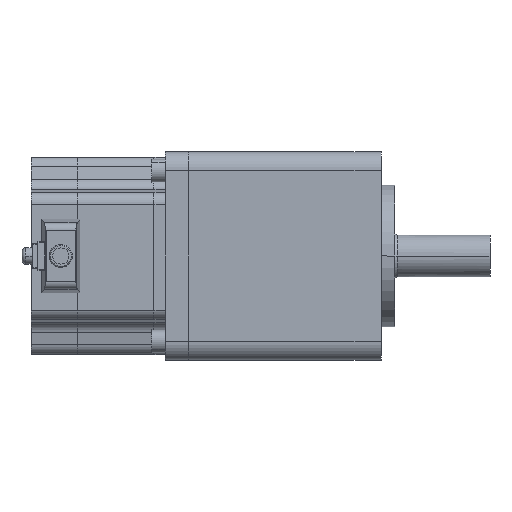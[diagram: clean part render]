
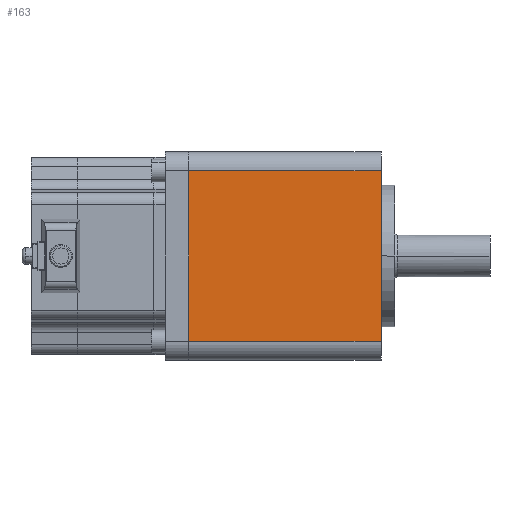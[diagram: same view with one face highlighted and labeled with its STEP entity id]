
A CAD part, front view. The second image highlights one B-rep face of the part: STEP entity #163.
In plain terms, the highlighted planar face has unit normal (0, -1, 0).
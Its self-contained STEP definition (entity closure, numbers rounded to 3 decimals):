
#163 = ADVANCED_FACE( '', ( #449 ), #450, .T. );
#449 = FACE_OUTER_BOUND( '', #956, .T. );
#450 = PLANE( '', #957 );
#956 = EDGE_LOOP( '', ( #1659, #1660, #1661, #1662 ) );
#957 = AXIS2_PLACEMENT_3D( '', #1663, #1664, #1665 );
#1659 = ORIENTED_EDGE( '', *, *, #3482, .T. );
#1660 = ORIENTED_EDGE( '', *, *, #3483, .F. );
#1661 = ORIENTED_EDGE( '', *, *, #3484, .F. );
#1662 = ORIENTED_EDGE( '', *, *, #3479, .T. );
#1663 = CARTESIAN_POINT( '', ( 0., -45., 36.8 ) );
#1664 = DIRECTION( '', ( 0., -1., 0. ) );
#1665 = DIRECTION( '', ( 0., 0., 1. ) );
#3479 = EDGE_CURVE( '', #4174, #4172, #4175, .T. );
#3482 = EDGE_CURVE( '', #4172, #4179, #4180, .T. );
#3483 = EDGE_CURVE( '', #4181, #4179, #4182, .T. );
#3484 = EDGE_CURVE( '', #4174, #4181, #4183, .T. );
#4172 = VERTEX_POINT( '', #5313 );
#4174 = VERTEX_POINT( '', #5315 );
#4175 = LINE( '', #5316, #5317 );
#4179 = VERTEX_POINT( '', #5322 );
#4180 = LINE( '', #5323, #5324 );
#4181 = VERTEX_POINT( '', #5325 );
#4182 = LINE( '', #5326, #5327 );
#4183 = LINE( '', #5328, #5329 );
#5313 = CARTESIAN_POINT( '', ( -83., -45., 36.8 ) );
#5315 = CARTESIAN_POINT( '', ( 0., -45., 36.8 ) );
#5316 = CARTESIAN_POINT( '', ( 0., -45., 36.8 ) );
#5317 = VECTOR( '', #6815, 1. );
#5322 = CARTESIAN_POINT( '', ( -83., -45., -36.8 ) );
#5323 = CARTESIAN_POINT( '', ( -83., -45., 36.8 ) );
#5324 = VECTOR( '', #6820, 1. );
#5325 = CARTESIAN_POINT( '', ( 0., -45., -36.8 ) );
#5326 = CARTESIAN_POINT( '', ( 0., -45., -36.8 ) );
#5327 = VECTOR( '', #6821, 1. );
#5328 = CARTESIAN_POINT( '', ( 0., -45., 36.8 ) );
#5329 = VECTOR( '', #6822, 1. );
#6815 = DIRECTION( '', ( -1., 0., 0. ) );
#6820 = DIRECTION( '', ( 0., 0., -1. ) );
#6821 = DIRECTION( '', ( -1., 0., 0. ) );
#6822 = DIRECTION( '', ( 0., 0., -1. ) );
